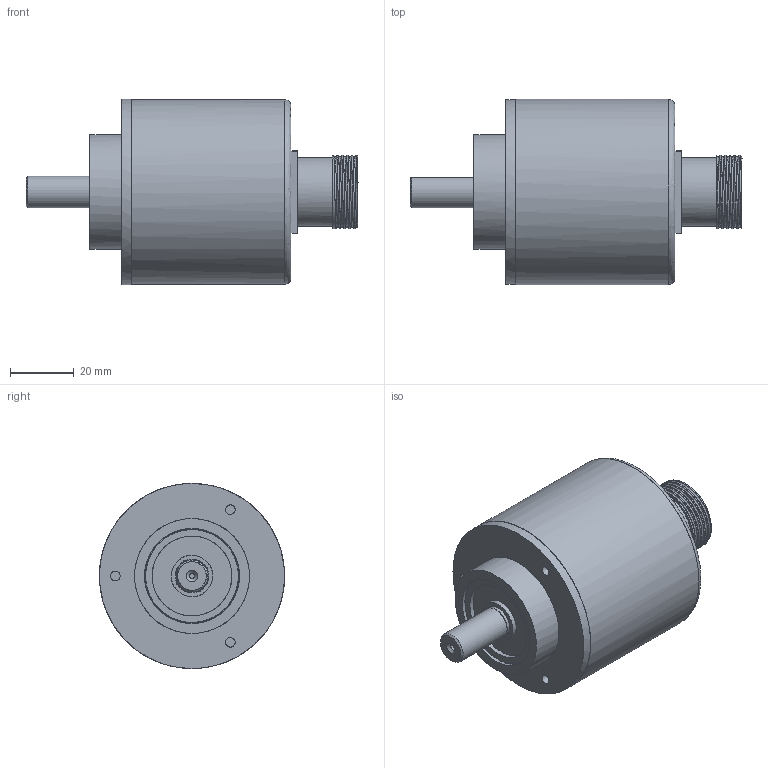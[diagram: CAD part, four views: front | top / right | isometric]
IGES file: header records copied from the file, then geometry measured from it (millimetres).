
Global section: file name: H:\lem\3DCAD_EI 1058_S10x20C_M23A.igs; native system: NX V11.0; preprocessor: SIEMENS PLM Software NX 11.0; date: 20200715.104935; units: millimetre
Bounding box: 104 x 58 x 58 mm (x, y, z)
Surface area: 23204.2 mm2 (no closed solid volume)
Topology: 0 solids, 0 shells, 112 faces, 1054 edges, 1042 vertices
Faces by surface type: bspline 112
